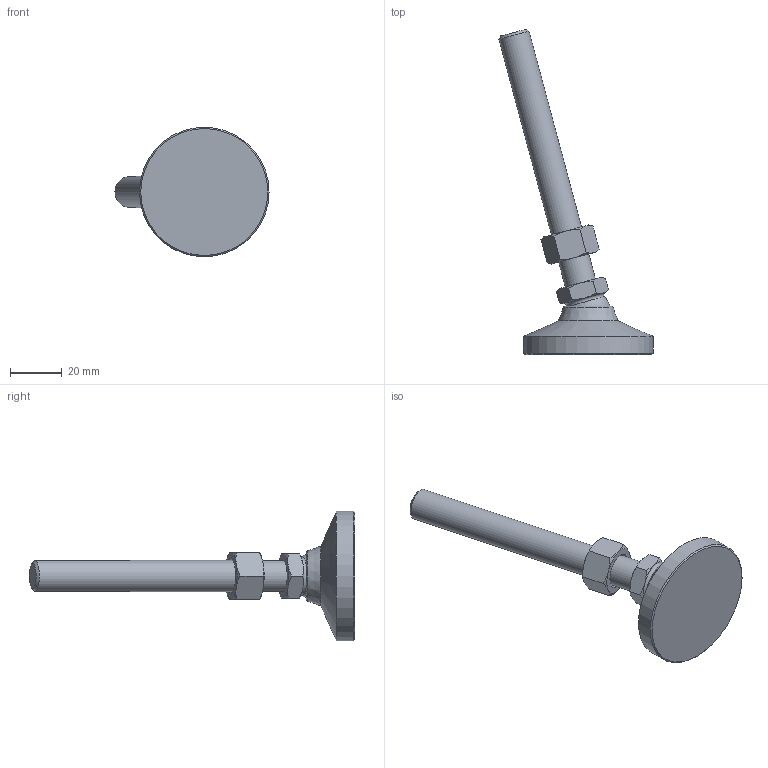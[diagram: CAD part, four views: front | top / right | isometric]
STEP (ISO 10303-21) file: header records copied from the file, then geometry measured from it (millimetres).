
FILE_DESCRIPTION( ( 'STEP AP214' ), ' ' );
FILE_NAME( 'O:/ganter_2015/teil_2/2_5/gn343_2/gn343_2_os/Levelling foot with threaded stud GN 343.2-50-M12-100-OS-(15).stp', '2015-10-26T09:08:11', ( '' ), ( '' ), ' ', 'PARTsolutions', ' ' );
FILE_SCHEMA( ( 'AUTOMOTIVE_DESIGN { 1 0 10303 214 1 1 1 1 }' ) );
Length unit declared in the file: millimetre
Products named in the file (4): Levelling foot with threaded stud GN 343.2-50-M12-100-OS-(15); _Levelling foot with threaded stud GN 343.2-50-M12-100-OS-(15)_foot; _Levelling foot with threaded stud GN 343.2-50-M12-100-OS-(15)_screw; _Stainless Steel-Levelling feet GN 343.2-50-M12-100-OS-(15)_nut
Assembly tree (3 placements, depth 2):
  Levelling foot with threaded stud GN 343.2-50-M12-100-OS-(15)
    _Levelling foot with threaded stud GN 343.2-50-M12-100-OS-(15)_foot
    _Levelling foot with threaded stud GN 343.2-50-M12-100-OS-(15)_screw
    _Stainless Steel-Levelling feet GN 343.2-50-M12-100-OS-(15)_nut
Bounding box: 59.47 x 125.49 x 50 mm (x, y, z)
Volume: 37776.2 mm3; surface area: 12286.1 mm2
Topology: 3 solids, 3 shells, 55 faces, 116 edges, 67 vertices
Faces by surface type: cone 30, plane 18, cylinder 3, torus 2, sphere 2
Full cylindrical faces by diameter (mm): 10.106 x1, 12 x1, 50 x1
Entity records: 2038 total; most frequent: CARTESIAN_POINT 495, DIRECTION 208, ORIENTED_EDGE 198, EDGE_CURVE 99, AXIS2_PLACEMENT_3D 98, EDGE_LOOP 70, VERTEX_POINT 65, FACE_OUTER_BOUND 60
